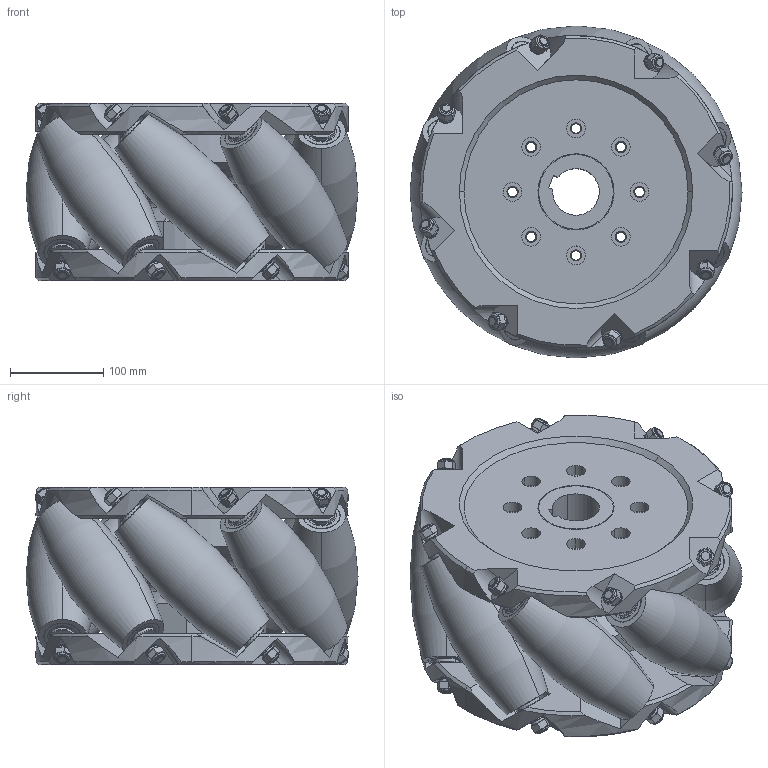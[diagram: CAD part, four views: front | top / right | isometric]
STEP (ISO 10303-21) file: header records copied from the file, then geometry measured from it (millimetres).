
FILE_DESCRIPTION (( 'STEP AP214' ), '1' );
FILE_NAME ('NM355A - combination.STEP', '2019-04-01T07:18:35', ( 'Windows 蚚誧' ), ( '' ), 'SwSTEP 2.0', 'SolidWorks 2019', '' );
FILE_SCHEMA (( 'AUTOMOTIVE_DESIGN' ));
Length unit declared in the file: millimetre
Products named in the file (13): 粟銅菜朴10; 14渡45僅8煦陬謫-謫え 3嗨; 嫖粣菜え; 笢陑璃1; す瑩1 3x3x8; 14寸45度轮车轮包胶轮毂  3吨; 滅侂蹟譫M10; NM355A - combination; 菜え3; 婦蝶謫族; 苤粣1; 麥笭粣創; 菜え2
Assembly tree (131 placements, depth 2):
  NM355A - combination
    14渡45僅8煦陬謫-謫え 3嗨  x2
    14寸45度轮车轮包胶轮毂  3吨  x8
    麥笭粣創  x16
    菜え2  x16
    婦蝶謫族  x8
    笢陑璃1
    苤粣1  x8
    嫖粣菜え  x16
    粟銅菜朴10  x16
    滅侂蹟譫M10  x16
    菜え3  x16
    す瑩1 3x3x8  x8
Bounding box: 355.65 x 355.65 x 190 mm (x, y, z)
Volume: 11138924.6 mm3; surface area: 1759134.1 mm2
Topology: 131 solids, 131 shells, 2220 faces, 4888 edges, 3062 vertices
Faces by surface type: cylinder 915, plane 673, cone 580, torus 52
Entity records: 15959 total; most frequent: CARTESIAN_POINT 3975, DIRECTION 2489, ORIENTED_EDGE 2072, AXIS2_PLACEMENT_3D 1040, EDGE_CURVE 1036, VERTEX_POINT 662, EDGE_LOOP 522, CIRCLE 487
